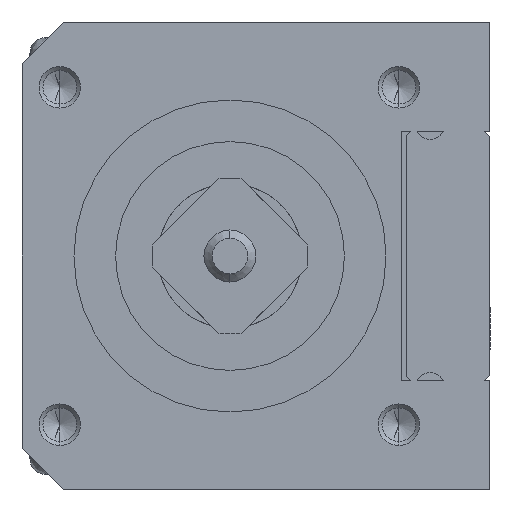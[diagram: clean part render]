
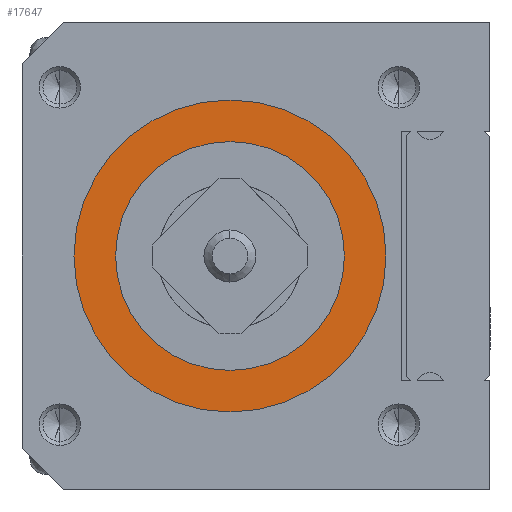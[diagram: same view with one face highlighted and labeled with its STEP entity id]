
A CAD part, left-side view. The second image highlights one B-rep face of the part: STEP entity #17647.
In plain terms, the highlighted planar face has unit normal (-1, 0, 0).
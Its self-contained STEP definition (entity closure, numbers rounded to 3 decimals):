
#861 = CIRCLE ( 'NONE', #4991, 11. ) ;
#1182 = CIRCLE ( 'NONE', #5056, 15. ) ;
#2414 = ORIENTED_EDGE ( 'NONE', *, *, #5529, .F. ) ;
#2415 = ORIENTED_EDGE ( 'NONE', *, *, #4226, .F. ) ;
#2416 = ORIENTED_EDGE ( 'NONE', *, *, #4804, .T. ) ;
#2417 = ORIENTED_EDGE ( 'NONE', *, *, #4419, .T. ) ;
#4226 = EDGE_CURVE ( 'NONE', #16153, #16154, #861, .T. ) ;
#4419 = EDGE_CURVE ( 'NONE', #7945, #7968, #1182, .T. ) ;
#4804 = EDGE_CURVE ( 'NONE', #7968, #7945, #14586, .T. ) ;
#4991 = AXIS2_PLACEMENT_3D ( 'NONE', #6486, #6485, #6468 ) ;
#5056 = AXIS2_PLACEMENT_3D ( 'NONE', #6844, #6843, #6842 ) ;
#5529 = EDGE_CURVE ( 'NONE', #16154, #16153, #18202, .T. ) ;
#6468 = DIRECTION ( 'NONE',  ( 0., 0., 1. ) ) ;
#6485 = DIRECTION ( 'NONE',  ( -1., 0., 0. ) ) ;
#6486 = CARTESIAN_POINT ( 'NONE',  ( -40., 25., 0. ) ) ;
#6842 = DIRECTION ( 'NONE',  ( 0., 0., 1. ) ) ;
#6843 = DIRECTION ( 'NONE',  ( -1., 0., 0. ) ) ;
#6844 = CARTESIAN_POINT ( 'NONE',  ( -40., 25., 0. ) ) ;
#7945 = VERTEX_POINT ( 'NONE', #20788 ) ;
#7968 = VERTEX_POINT ( 'NONE', #20811 ) ;
#9055 = FACE_OUTER_BOUND ( 'NONE', #11275, .T. ) ;
#9056 = FACE_BOUND ( 'NONE', #11274, .T. ) ;
#11274 = EDGE_LOOP ( 'NONE', ( #2415, #2414 ) ) ;
#11275 = EDGE_LOOP ( 'NONE', ( #2417, #2416 ) ) ;
#13077 = CARTESIAN_POINT ( 'NONE',  ( -40., 25., 0. ) ) ;
#13078 = DIRECTION ( 'NONE',  ( -1., 0., 0. ) ) ;
#13079 = DIRECTION ( 'NONE',  ( 0., 0., 1. ) ) ;
#13380 = DIRECTION ( 'NONE',  ( -1., 0., 0. ) ) ;
#13381 = CARTESIAN_POINT ( 'NONE',  ( -40., 25., 0. ) ) ;
#14586 = CIRCLE ( 'NONE', #15231, 15. ) ;
#15231 = AXIS2_PLACEMENT_3D ( 'NONE', #13381, #13380, #19417 ) ;
#15318 = AXIS2_PLACEMENT_3D ( 'NONE', #13077, #13078, #13079 ) ;
#15908 = AXIS2_PLACEMENT_3D ( 'NONE', #17174, #17175, #17176 ) ;
#16153 = VERTEX_POINT ( 'NONE', #16916 ) ;
#16154 = VERTEX_POINT ( 'NONE', #16917 ) ;
#16916 = CARTESIAN_POINT ( 'NONE',  ( -40., 25., 11. ) ) ;
#16917 = CARTESIAN_POINT ( 'NONE',  ( -40., 25., -11. ) ) ;
#17173 = PLANE ( 'NONE',  #15908 ) ;
#17174 = CARTESIAN_POINT ( 'NONE',  ( -40., 0., 0. ) ) ;
#17175 = DIRECTION ( 'NONE',  ( 1., 0., 0. ) ) ;
#17176 = DIRECTION ( 'NONE',  ( 0., 0., -1. ) ) ;
#17647 = ADVANCED_FACE ( 'NONE', ( #9055, #9056 ), #17173, .F. ) ;
#18202 = CIRCLE ( 'NONE', #15318, 11. ) ;
#19417 = DIRECTION ( 'NONE',  ( 0., 0., 1. ) ) ;
#20788 = CARTESIAN_POINT ( 'NONE',  ( -40., 25., 15. ) ) ;
#20811 = CARTESIAN_POINT ( 'NONE',  ( -40., 25., -15. ) ) ;
